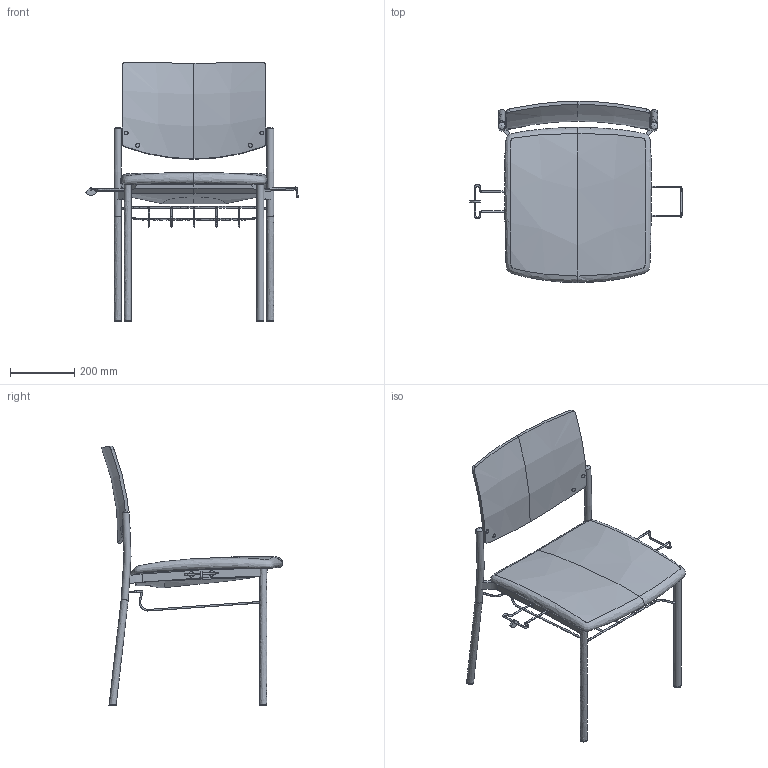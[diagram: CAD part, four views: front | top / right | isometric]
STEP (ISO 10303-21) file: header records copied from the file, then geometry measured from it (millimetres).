
FILE_DESCRIPTION(/* description */ (''),/* implementation_level */ '2;1');
FILE_NAME(/* name */ 'Seance 091+dopl',/* time_stamp */ '2020-03-26T15:23:35+01:00',/* author */ (''),/* organization */ (''),/* preprocessor_version */ 'ST-DEVELOPER v16.5',/* originating_system */ '',/* authorisation */ '');
FILE_SCHEMA (('AUTOMOTIVE_DESIGN'));
Length unit declared in the file: millimetre
Products named in the file (1): Document
Bounding box: 659.37 x 563.31 x 807.99 mm (x, y, z)
Volume: 9233338.2 mm3; surface area: 1214192.4 mm2
Topology: 17 solids, 35 shells, 179 faces, 354 edges, 221 vertices
Faces by surface type: bspline 119, plane 60
Entity records: 9721 total; most frequent: CARTESIAN_POINT 7308, ORIENTED_EDGE 662, EDGE_CURVE 349, VERTEX_POINT 215, EDGE_LOOP 183, ADVANCED_FACE 179, FACE_OUTER_BOUND 179, B_SPLINE_CURVE_WITH_KNOTS 142
